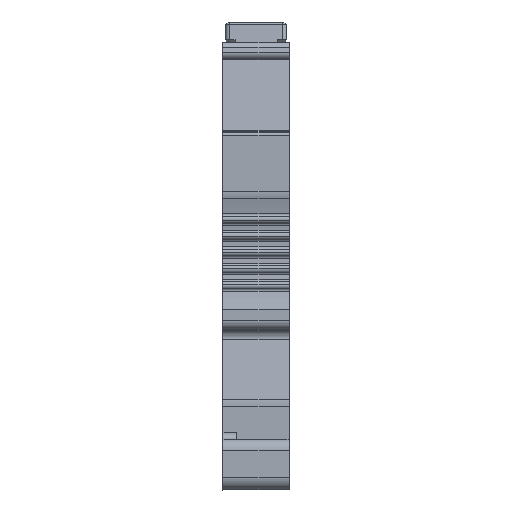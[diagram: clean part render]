
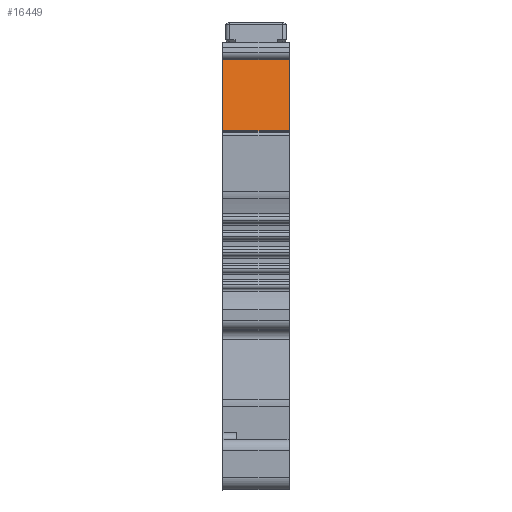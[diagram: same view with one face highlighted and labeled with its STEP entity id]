
A CAD part, front view. The second image highlights one B-rep face of the part: STEP entity #16449.
In plain terms, the highlighted planar face has unit normal (0, -0.985, 0.174).
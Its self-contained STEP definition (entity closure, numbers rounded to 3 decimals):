
#555=DIRECTION('',(0.,0.174,0.985));
#556=VECTOR('',#555,6.125);
#557=CARTESIAN_POINT('',(12.15,13.371,27.863));
#558=LINE('',#557,#556);
#1988=DIRECTION('',(0.,-0.174,-0.985));
#1989=VECTOR('',#1988,6.125);
#1990=CARTESIAN_POINT('',(6.95,14.435,33.895));
#1991=LINE('',#1990,#1989);
#3661=DIRECTION('',(-1.,0.,0.));
#3662=VECTOR('',#3661,5.2);
#3663=CARTESIAN_POINT('',(12.15,14.435,33.895));
#3664=LINE('',#3663,#3662);
#3665=DIRECTION('',(1.,0.,0.));
#3666=VECTOR('',#3665,5.2);
#3667=CARTESIAN_POINT('',(6.95,13.371,27.863));
#3668=LINE('',#3667,#3666);
#10756=CARTESIAN_POINT('',(12.15,13.371,27.863));
#10757=VERTEX_POINT('',#10756);
#10758=CARTESIAN_POINT('',(12.15,14.435,33.895));
#10759=VERTEX_POINT('',#10758);
#11759=CARTESIAN_POINT('',(6.95,14.435,33.895));
#11760=VERTEX_POINT('',#11759);
#11761=CARTESIAN_POINT('',(6.95,13.371,27.863));
#11762=VERTEX_POINT('',#11761);
#16437=CARTESIAN_POINT('',(7.,14.452,33.993));
#16438=DIRECTION('',(0.,0.985,-0.174));
#16439=DIRECTION('',(0.,-0.174,-0.985));
#16440=AXIS2_PLACEMENT_3D('',#16437,#16438,#16439);
#16441=PLANE('',#16440);
#16443=ORIENTED_EDGE('',*,*,#16442,.F.);
#16444=ORIENTED_EDGE('',*,*,#14922,.F.);
#16445=ORIENTED_EDGE('',*,*,#16431,.F.);
#16446=ORIENTED_EDGE('',*,*,#13173,.F.);
#16447=EDGE_LOOP('',(#16443,#16444,#16445,#16446));
#16448=FACE_OUTER_BOUND('',#16447,.F.);
#16449=ADVANCED_FACE('',(#16448),#16441,.F.);
#13173=EDGE_CURVE('',#10757,#10759,#558,.T.);
#14922=EDGE_CURVE('',#11760,#11762,#1991,.T.);
#16431=EDGE_CURVE('',#10759,#11760,#3664,.T.);
#16442=EDGE_CURVE('',#11762,#10757,#3668,.T.);
